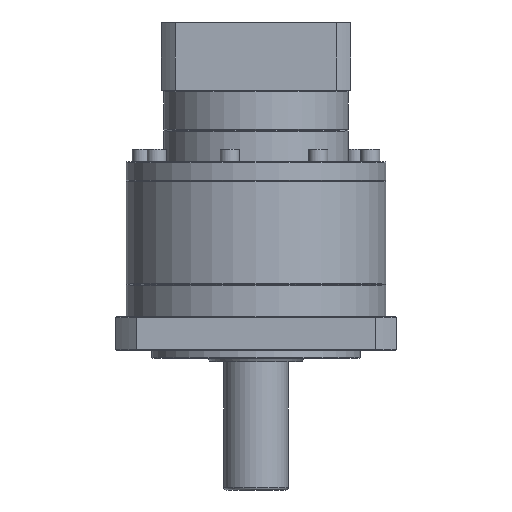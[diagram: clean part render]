
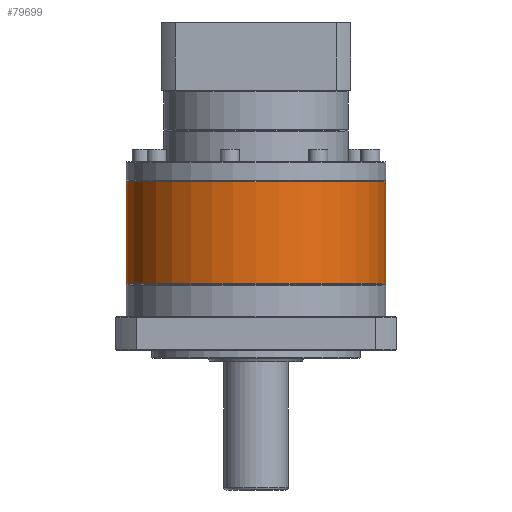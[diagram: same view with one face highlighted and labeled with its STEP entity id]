
A CAD part, front view. The second image highlights one B-rep face of the part: STEP entity #79699.
In plain terms, the highlighted cylindrical face has radius 81 mm (diameter 162 mm), a partial arc.
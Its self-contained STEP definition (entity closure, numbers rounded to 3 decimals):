
#7122 = VERTEX_POINT ( 'NONE', #79735 ) ;
#11031 = CARTESIAN_POINT ( 'NONE',  ( -193.465, 85.994, -48.301 ) ) ;
#16507 = LINE ( 'NONE', #67857, #83237 ) ;
#18954 = EDGE_CURVE ( 'NONE', #74478, #70233, #70062, .T. ) ;
#24590 = CYLINDRICAL_SURFACE ( 'NONE', #88087, 81. ) ;
#25273 = AXIS2_PLACEMENT_3D ( 'NONE', #89817, #32493, #97797 ) ;
#26392 = EDGE_CURVE ( 'NONE', #7122, #74478, #62200, .T. ) ;
#28261 = CARTESIAN_POINT ( 'NONE',  ( -31.465, 85.994, -48.801 ) ) ;
#32493 = DIRECTION ( 'NONE',  ( 0., 0., -1. ) ) ;
#37176 = ORIENTED_EDGE ( 'NONE', *, *, #26392, .T. ) ;
#37937 = DIRECTION ( 'NONE',  ( -1., 0., 0. ) ) ;
#43961 = VECTOR ( 'NONE', #60711, 1000. ) ;
#44740 = EDGE_CURVE ( 'NONE', #85221, #70233, #16507, .T. ) ;
#46262 = DIRECTION ( 'NONE',  ( -1., 0., 0. ) ) ;
#51544 = ORIENTED_EDGE ( 'NONE', *, *, #18954, .T. ) ;
#53633 = DIRECTION ( 'NONE',  ( 0., 0., 1. ) ) ;
#60711 = DIRECTION ( 'NONE',  ( 0., 0., -1. ) ) ;
#62200 = LINE ( 'NONE', #11031, #43961 ) ;
#63028 = CARTESIAN_POINT ( 'NONE',  ( -112.465, 85.994, -48.301 ) ) ;
#65193 = EDGE_LOOP ( 'NONE', ( #98801, #80468, #37176, #51544 ) ) ;
#67857 = CARTESIAN_POINT ( 'NONE',  ( -31.465, 85.994, -48.301 ) ) ;
#70062 = CIRCLE ( 'NONE', #92018, 81. ) ;
#70233 = VERTEX_POINT ( 'NONE', #98856 ) ;
#74478 = VERTEX_POINT ( 'NONE', #85333 ) ;
#75529 = CIRCLE ( 'NONE', #25273, 81. ) ;
#76281 = DIRECTION ( 'NONE',  ( 0., 0., -1. ) ) ;
#79699 = ADVANCED_FACE ( 'NONE', ( #92558 ), #24590, .T. ) ;
#79735 = CARTESIAN_POINT ( 'NONE',  ( -193.465, 85.994, -48.801 ) ) ;
#80468 = ORIENTED_EDGE ( 'NONE', *, *, #89022, .T. ) ;
#83237 = VECTOR ( 'NONE', #76281, 1000. ) ;
#85221 = VERTEX_POINT ( 'NONE', #28261 ) ;
#85333 = CARTESIAN_POINT ( 'NONE',  ( -193.465, 85.994, -112.301 ) ) ;
#87205 = DIRECTION ( 'NONE',  ( 0., 0., -1. ) ) ;
#88087 = AXIS2_PLACEMENT_3D ( 'NONE', #63028, #87205, #46262 ) ;
#89022 = EDGE_CURVE ( 'NONE', #85221, #7122, #75529, .T. ) ;
#89817 = CARTESIAN_POINT ( 'NONE',  ( -112.465, 85.994, -48.801 ) ) ;
#92018 = AXIS2_PLACEMENT_3D ( 'NONE', #96353, #53633, #37937 ) ;
#92558 = FACE_OUTER_BOUND ( 'NONE', #65193, .T. ) ;
#96353 = CARTESIAN_POINT ( 'NONE',  ( -112.465, 85.994, -112.301 ) ) ;
#97797 = DIRECTION ( 'NONE',  ( -1., 0., 0. ) ) ;
#98801 = ORIENTED_EDGE ( 'NONE', *, *, #44740, .F. ) ;
#98856 = CARTESIAN_POINT ( 'NONE',  ( -31.465, 85.994, -112.301 ) ) ;
